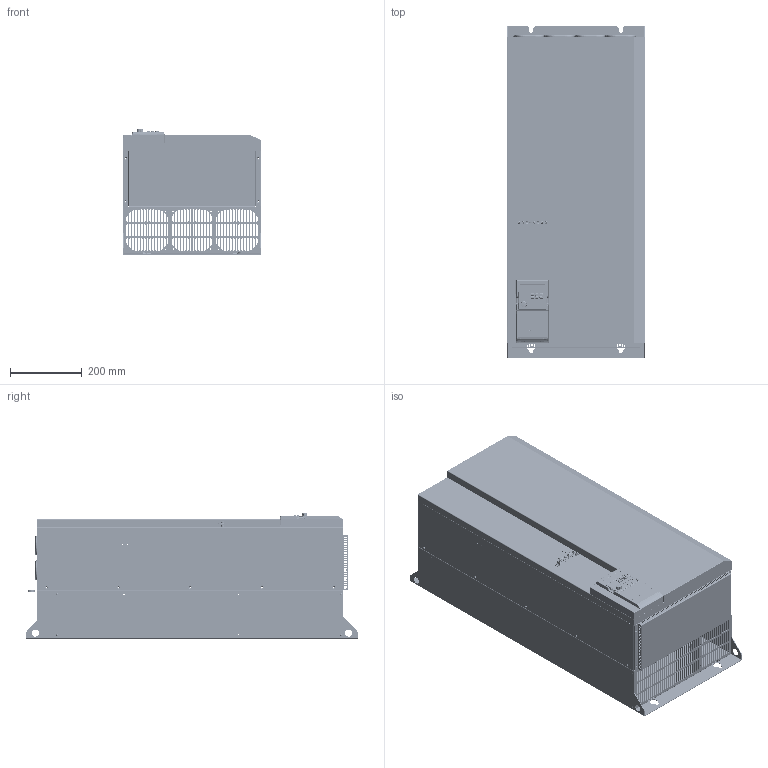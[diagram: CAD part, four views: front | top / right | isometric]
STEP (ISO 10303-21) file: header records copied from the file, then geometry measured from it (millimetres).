
FILE_DESCRIPTION((''),'2;1');
FILE_NAME('VFC5610-132K-3P4-MNA-XX-NNNNN-N','2023-04-03T11:06:36',('ZUX1XI'),(''),'CREO PARAMETRIC BY PTC INC, 2021072','CREO PARAMETRIC BY PTC INC, 2021072','');
FILE_SCHEMA(('AUTOMOTIVE_DESIGN { 1 0 10303 214 1 1 1 1 }'));
Products named in the file (49): VFC5610_132KW_BASE_P1_2_1_1_1_1; VFC5610_132KW_BASE_P2_1_1_1_1_1; VFC5610_132KW_BASE_P3_1_1_1_1_1; VFC5610-132KW_BASE_REVIT_1_1__1; 01_BASE_VFC5610-132KW_1_1_1_1_1; VFC5610_132KW_HOLDER_HEATSINK_1; VFC5610_132KW_LEFT-PLATE_5_1__1; 01_LEFT-PLATE_VFC5610-132KW_9_2; VFC5610_132KW_RIGHT-PLATE_13__1; 01_RIGHT-PLATE_VFC5610-132KW__1; VFC5610_132KW_FRONT-COVER_P1__1; TOP-COVER_VFC5610-132KW_1_1_1_2; X610_37_IO_BASE-20150120_1_1__1; PL_EFC5610_IOCAE_CONVER_2_1_1_1; CPU_CONNECTOR-14P_1_1_1_1_1; 548190519_1_1_1_1_1; 1155590000_1_1_1_1_1; LK_YCP06_1_ASM_1_1_1_1; 01-IOBACK_CASE_1_1_1_1_1; 01-IOCASE_1_ASM_1_1_1_1; 01-IOCASE_1_ASM_1_1_1; 01_DISPLAYCASE_00_1_1_1_1_1; LED_00_1_1_1_1_1; DISPLAY_PCB_00_1_ASM_1_1_1_1; BACK_CASE1_00_1_1_1_1_1; R911330333_FOLIE_00_1_1_1_1_1; BUUTTON_00_1_1_1_1_1; XUAN_NIU_00_1_1_1_1_1; 02-DISPLAY-CASE_00_1_ASM_1_1_1_; 02-DISPLAY-CASE_00_1_ASM_1_1_1; EARTHING_CLIP_2_1_1_1_1_1_1_1_1; EARTHING_CLIP1_1_1_1_1_1_1_1_1; LDZHJ_SZCYZT_M4X12_1_1_1_1_1_1_; 01_EARTHING_IO_1_1_1_1_1_1_1_1; VFC5610_132KW_TOP_COVER_1_1_1_2; VFC5610_132KW_TOP-PLATE_1_1_1_2; VFC5610_132KW_BOTTOM-PLATE_1__1; HOUSING_HUXIANTAO_1_1_1_1_1_1_1; 01_BOTTOM-PLATE_IP20_1_1_1_1_1_; VFC5610_132KW_FRONT-COVER_P2__1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
Assembly tree (68 placements, depth 14):
  VFC5610-132K-3P4-MNA-XX-NNNNN-N
    VFC5610-132K-3P4-MNA-XX-NNNNN_3
      VFC5610-132K-3P4-MNA-XX-NNNNN_2
        VFC5610-132K-3P4-MNA-XX-NNNNN_1
          XFC5610_110_132KW_K_HOUSING_1_1
            XFC5610_110_132KW_K_HOU-16124_2
              XFC5610_110_132KW_K_HOU-16124_1
                00_XFCX610-132KW_10_1_1_1_1_1_1
                  01_HOUSING_VFC5610-132KW_5_1__1
Bounding box: 387.2 x 923 x 350.05 mm (x, y, z)
Volume: 40854.4 mm3; surface area: 3913064.6 mm2
Topology: 10 solids, 5796 shells, 9940 faces, 41289 edges, 37171 vertices
Faces by surface type: plane 5215, cylinder 3372, bspline 444, torus 406, cone 220, sphere 157, extrusion 126
Entity records: 611476 total; most frequent: CARTESIAN_POINT 180473, DIRECTION 53202, ORIENTED_EDGE 46149, PRESENTATION_STYLE_ASSIGNMENT 40866, STYLED_ITEM 39780, CURVE_STYLE 34970, EDGE_CURVE 34970, VERTEX_POINT 31002
